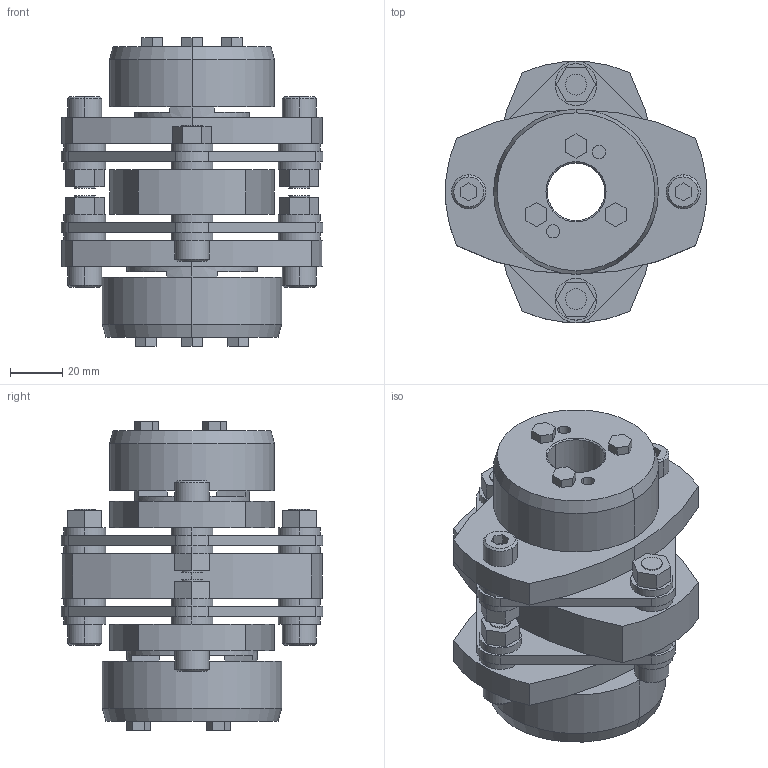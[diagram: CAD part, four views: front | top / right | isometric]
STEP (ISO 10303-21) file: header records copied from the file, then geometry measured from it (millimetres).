
FILE_DESCRIPTION((''),'2;1');
FILE_NAME('LCD-100T7-22×28.stp','2015-11-02T07:28:32',(''),(''),'AutoCAD STEP 2000i','AutoCAD 2000i',', , ');
FILE_SCHEMA(('CONFIG_CONTROL_DESIGN'));
Length unit declared in the file: millimetre
Products named in the file (7): LCD-100T7-22×28; 忣兜1; LC100T7-T028-1; LC100T7-T025; LC100T7-T022-1; LC100T7-T022; LCD100-ITA
Assembly tree (6 placements, depth 2):
  LCD-100T7-22×28
    忣兜1
    LC100T7-T028-1
    LC100T7-T025
    LC100T7-T022-1
    LC100T7-T022
    LCD100-ITA
Bounding box: 100 x 99.93 x 118 mm (x, y, z)
Volume: 360354.6 mm3; surface area: 90523.5 mm2
Topology: 1 solids, 1 shells, 320 faces, 780 edges, 512 vertices
Faces by surface type: plane 176, cylinder 120, cone 24
Entity records: 9663 total; most frequent: DIRECTION 1714, CARTESIAN_POINT 1619, ORIENTED_EDGE 1560, EDGE_CURVE 780, AXIS2_PLACEMENT_3D 607, VERTEX_POINT 512, VECTOR 500, LINE 500
